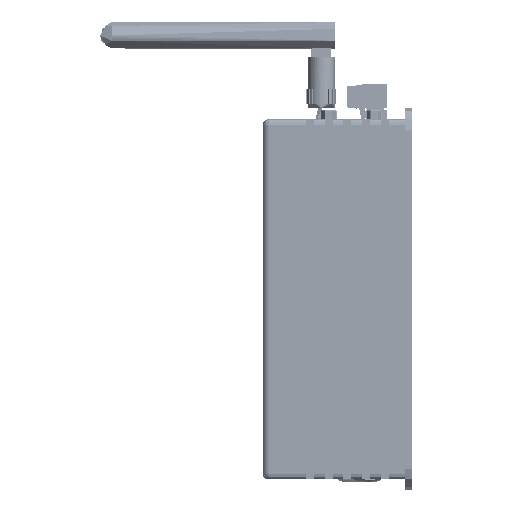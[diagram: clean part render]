
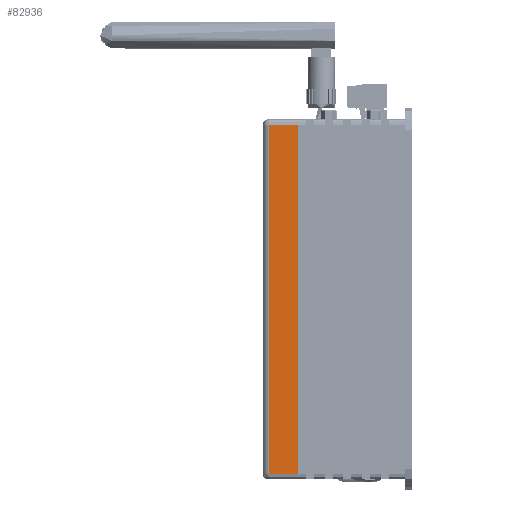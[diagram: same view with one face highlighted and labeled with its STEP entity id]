
A CAD part, left-side view. The second image highlights one B-rep face of the part: STEP entity #82936.
In plain terms, the highlighted planar face has unit normal (-1, 0, 0).
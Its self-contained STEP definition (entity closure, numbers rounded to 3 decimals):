
#82936=ADVANCED_FACE('',(#265832),#265834,.T.);
#265832=FACE_BOUND('',#265833,.T.);
#265833=EDGE_LOOP('',(#444131,#444132,#444133,#444134));
#265834=PLANE('',#265835);
#265835=AXIS2_PLACEMENT_3D('',#265836,#265837,#265838);
#265836=CARTESIAN_POINT('',(-174.8,6.505,-133.999));
#265837=DIRECTION('',(-1.,0.,0.));
#265838=DIRECTION('',(0.,0.,1.));
#444131=ORIENTED_EDGE('',*,*,#557109,.T.);
#444132=ORIENTED_EDGE('',*,*,#551946,.T.);
#444133=ORIENTED_EDGE('',*,*,#551942,.T.);
#444134=ORIENTED_EDGE('',*,*,#552356,.T.);
#551942=EDGE_CURVE('',#653161,#653159,#653162,.T.);
#551946=EDGE_CURVE('',#653167,#653161,#653168,.T.);
#552356=EDGE_CURVE('',#653159,#653818,#653820,.T.);
#557109=EDGE_CURVE('',#653818,#653167,#661469,.T.);
#653159=VERTEX_POINT('',#797651);
#653161=VERTEX_POINT('',#797656);
#653162=LINE('',#797657,#797658);
#653167=VERTEX_POINT('',#797671);
#653168=LINE('',#797672,#797673);
#653818=VERTEX_POINT('',#799353);
#653820=LINE('',#799358,#799359);
#661469=LINE('',#819978,#819979);
#797651=CARTESIAN_POINT('',(-174.8,-4.995,-1.999));
#797656=CARTESIAN_POINT('',(-174.8,-4.995,-131.999));
#797657=CARTESIAN_POINT('',(-174.8,-4.995,-131.999));
#797658=VECTOR('',#797659,1.);
#797659=DIRECTION('',(0.,0.,1.));
#797671=CARTESIAN_POINT('',(-174.8,5.677,-131.999));
#797672=CARTESIAN_POINT('',(-174.8,5.677,-131.999));
#797673=VECTOR('',#797674,1.);
#797674=DIRECTION('',(0.,-1.,0.));
#799353=CARTESIAN_POINT('',(-174.8,5.677,-1.999));
#799358=CARTESIAN_POINT('',(-174.8,-4.995,-1.999));
#799359=VECTOR('',#799360,1.);
#799360=DIRECTION('',(0.,1.,0.));
#819978=CARTESIAN_POINT('',(-174.8,5.677,-1.999));
#819979=VECTOR('',#819980,1.);
#819980=DIRECTION('',(0.,0.,-1.));
